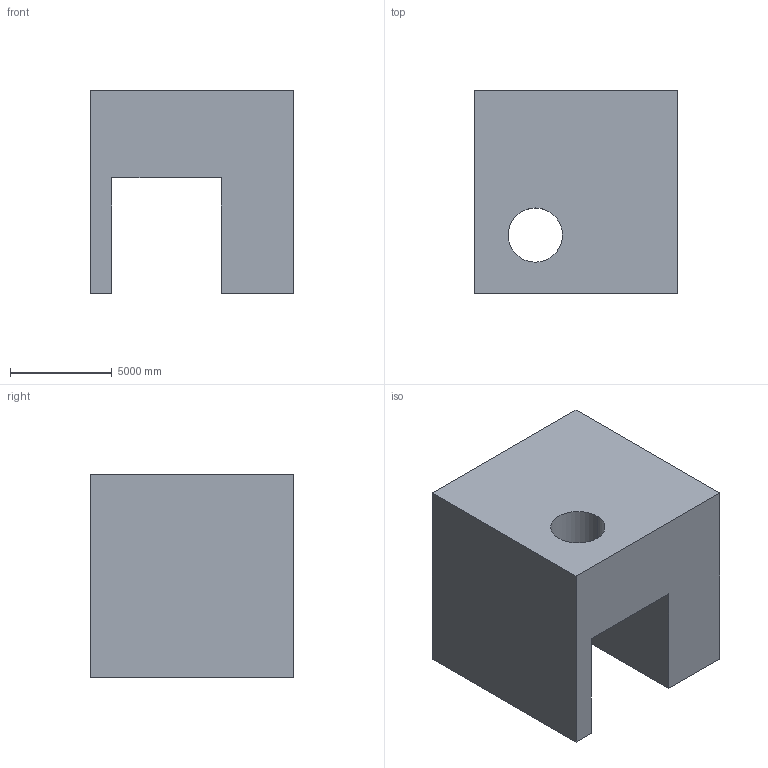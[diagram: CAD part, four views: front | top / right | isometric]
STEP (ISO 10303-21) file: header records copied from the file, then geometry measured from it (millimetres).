
FILE_DESCRIPTION (( 'STEP AP203' ), '1' );
FILE_NAME ('20.STEP', '2022-07-28T13:25:22', ( 'user' ), ( '' ), 'SwSTEP 2.0', 'SolidWorks 2021', '' );
FILE_SCHEMA (( 'CONFIG_CONTROL_DESIGN' ));
Length unit declared in the file: centimetre
Products named in the file (1): 20
Bounding box: 10000 x 10000 x 10000 mm (x, y, z)
Volume: 668670249337.8 mm3; surface area: 677409502.1 mm2
Topology: 1 solids, 1 shells, 12 faces, 30 edges, 20 vertices
Faces by surface type: plane 10, cylinder 2
Entity records: 439 total; most frequent: CARTESIAN_POINT 63, DIRECTION 60, ORIENTED_EDGE 60, EDGE_CURVE 30, LINE 26, VECTOR 26, VERTEX_POINT 20, AXIS2_PLACEMENT_3D 17
